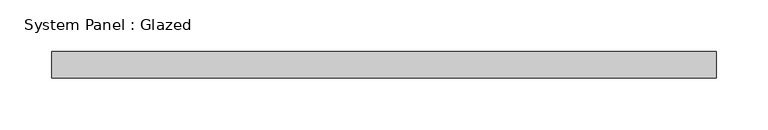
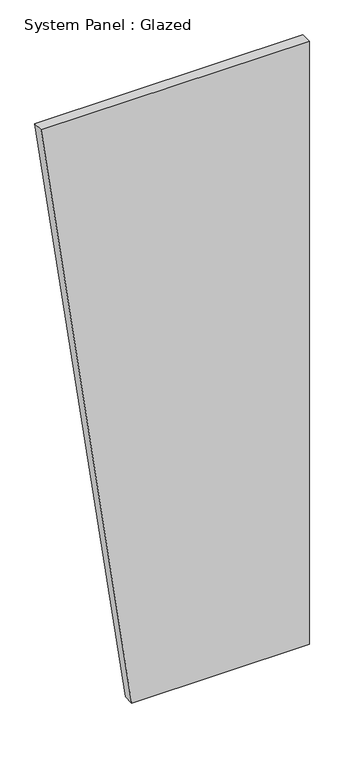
"""IFC4 building model written with IfcOpenShell, lengths in millimetres: plate geometry, System Panel : Glazed."""

from ifc_helpers import new_model, si_unit, frame, origin, place, context, project, spatial, polyline, outline, extrude, source, transform, mapped, element, save


def system_panel_glazed_22788083(model_context):
    return source(origin(), model_context, "Body", "SweptSolid", [
        extrude(outline(polyline([(0.0, -103.8401634), (0.0, 320.8855185), (1524.0, 320.8855185), (1524.0, -320.8855185), (0.0, -103.8401634)])), frame((0.0, 19.05, 0.0), z_axis=(0.0, 1.0, 0.0), x_axis=(0.0, 0.0, 1.0)), (0.0, 0.0, 1.0), 25.4),
    ])


if __name__ == "__main__":
    model = new_model("IFC4")
    model_context = context("Model", 3, world=origin())
    ifc_project = project(units=[si_unit("LENGTHUNIT", "METRE", prefix="MILLI")], contexts=[model_context])
    site = spatial("IfcSite", under=ifc_project)
    building = spatial("IfcBuilding", under=site)
    placement = place(None, origin())
    system_panel_glazed_shape = system_panel_glazed_22788083(model_context)
    element("IfcPlate", 1, ObjectType="System Panel : Glazed", at=placement, inside=building, context=model_context, shape_type="MappedRepresentation", body=[
        mapped(system_panel_glazed_shape, transform((0.0, 0.0, 0.0), x_axis=(1.0, 0.0, 0.0), y_axis=(0.0, 1.0, 0.0), z_axis=(0.0, 0.0, 1.0))),
    ])
    save(model, "model.ifc")
